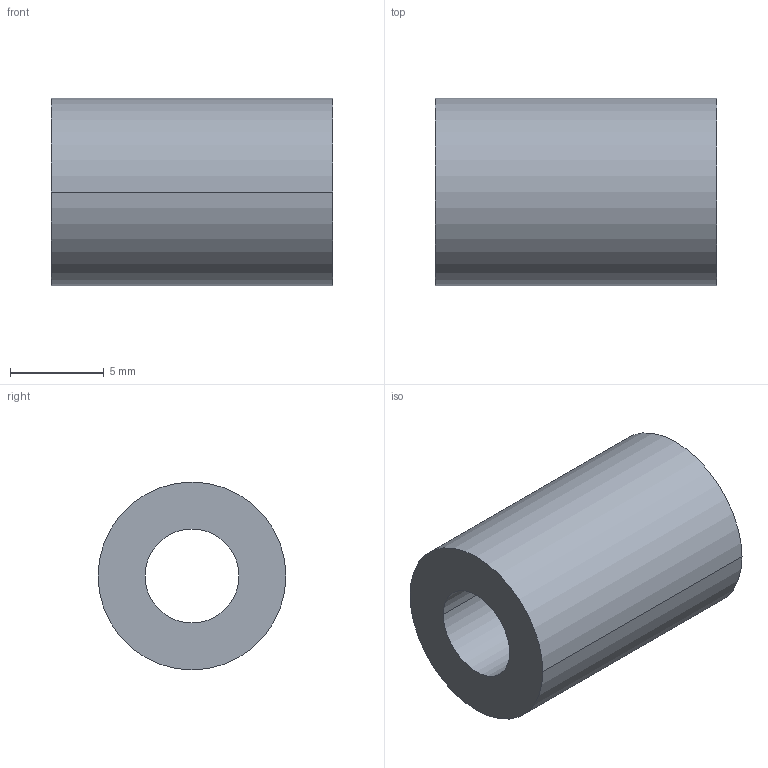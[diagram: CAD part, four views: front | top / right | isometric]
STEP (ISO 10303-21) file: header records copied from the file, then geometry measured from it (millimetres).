
FILE_DESCRIPTION (( 'STEP AP203' ), '1' );
FILE_NAME ('____-0.stp_Défaut_sldprt.STEP', '2024-11-30T15:38:43', ( '' ), ( '' ), 'SwSTEP 2.0', 'SolidWorks 2023', '' );
FILE_SCHEMA (( 'CONFIG_CONTROL_DESIGN' ));
Length unit declared in the file: millimetre
Products named in the file (1): ____-0.stp_Défaut_sldprt
Bounding box: 15 x 10 x 10 mm (x, y, z)
Volume: 883.6 mm3; surface area: 824.7 mm2
Topology: 1 solids, 1 shells, 6 faces, 12 edges, 8 vertices
Faces by surface type: cylinder 4, plane 2
Entity records: 245 total; most frequent: DIRECTION 34, CARTESIAN_POINT 27, ORIENTED_EDGE 24, AXIS2_PLACEMENT_3D 15, EDGE_CURVE 12, CIRCLE 8, PERSON_AND_ORGANIZATION 8, EDGE_LOOP 8
